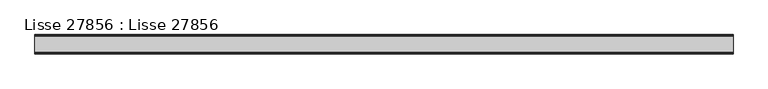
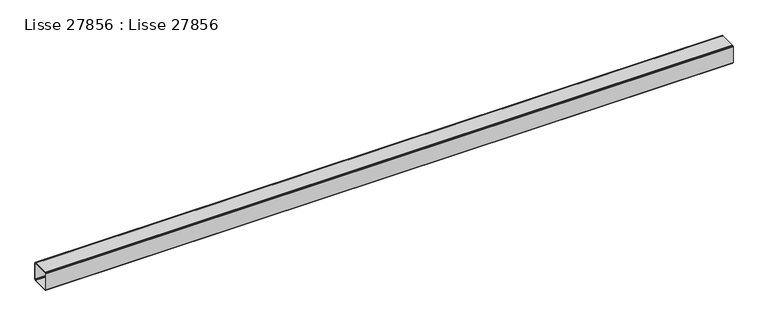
"""IFC4 building model written with IfcOpenShell, lengths in millimetres: beam geometry, Lisse 27856 : Lisse 27856."""

from ifc_helpers import new_model, si_unit, frame, origin, place, context, project, spatial, polyline, outline, extrude, source, transform, mapped, element, save


def lisse_27856_lisse_27856_29aeeb25(model_context):
    return source(origin(), model_context, "Body", "SweptSolid", [
        extrude(outline(polyline([(-38549.0, 8319.2453687), (-38461.0, 8319.2453687), (-38458.0, 8318.4415211), (-38455.8038476, 8316.2453687), (-38455.0, 8313.2453687), (-38455.0, 8225.2453687), (-38455.8038476, 8222.2453687), (-38458.0, 8220.0492163), (-38461.0, 8219.2453687), (-38549.0, 8219.2453687), (-38552.0, 8220.0492163), (-38554.1961524, 8222.2453687), (-38555.0, 8225.2453687), (-38555.0, 8313.2453687), (-38554.1961524, 8316.2453687), (-38552.0, 8318.4415211), (-38549.0, 8319.2453687)]), holes=[polyline([(-38551.0, 8311.2453687), (-38551.0, 8227.2453687), (-38550.4641016, 8225.2453687), (-38549.0, 8223.7812671), (-38547.0, 8223.2453687), (-38463.0, 8223.2453687), (-38461.0, 8223.7812671), (-38459.5358984, 8225.2453687), (-38459.0, 8227.2453687), (-38459.0, 8311.2453687), (-38459.5358984, 8313.2453687), (-38461.0, 8314.7094703), (-38463.0, 8315.2453687), (-38547.0, 8315.2453687), (-38549.0, 8314.7094703), (-38550.4641016, 8313.2453687), (-38551.0, 8311.2453687)])]), frame((24.9999999, 0.0, 0.0), z_axis=(1.0, 0.0, 0.0), x_axis=(0.0, 1.0, 0.0)), (0.0, 0.0, 1.0), 3637.5),
    ])


if __name__ == "__main__":
    model = new_model("IFC4")
    model_context = context("Model", 3, world=origin())
    ifc_project = project(units=[si_unit("LENGTHUNIT", "METRE", prefix="MILLI")], contexts=[model_context])
    site = spatial("IfcSite", under=ifc_project)
    building = spatial("IfcBuilding", under=site)
    placement = place(None, origin())
    lisse_27856_lisse_27856_shape = lisse_27856_lisse_27856_29aeeb25(model_context)
    element("IfcBeam", 1, ObjectType="Lisse 27856 : Lisse 27856", at=placement, inside=building, context=model_context, shape_type="MappedRepresentation", body=[
        mapped(lisse_27856_lisse_27856_shape, transform((0.0, 0.0, 0.0), x_axis=(1.0, 0.0, 0.0), y_axis=(0.0, 1.0, 0.0), z_axis=(0.0, 0.0, 1.0))),
    ])
    save(model, "model.ifc")
